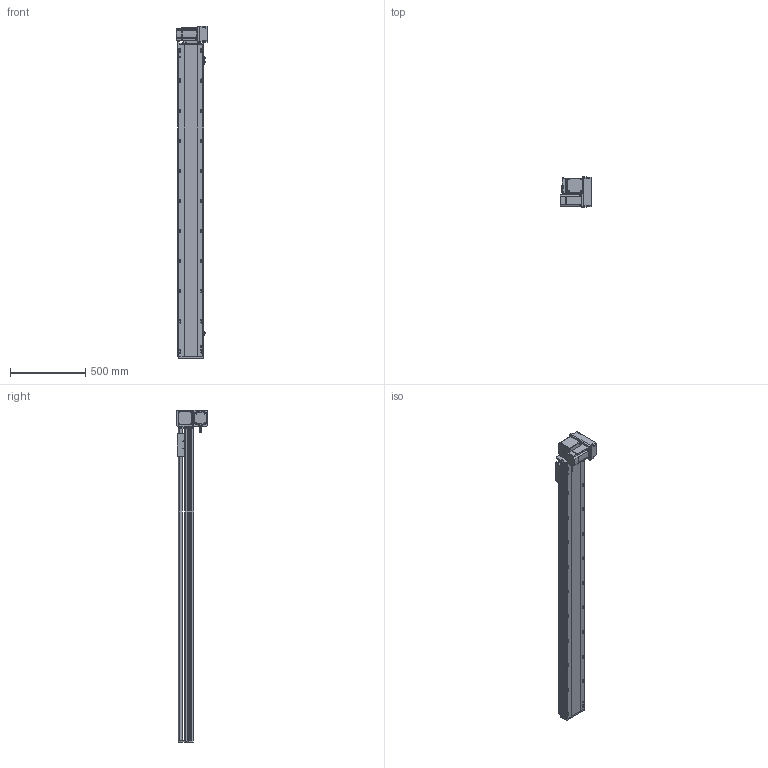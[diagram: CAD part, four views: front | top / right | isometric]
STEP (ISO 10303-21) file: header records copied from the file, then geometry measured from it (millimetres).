
FILE_DESCRIPTION (( 'STEP AP214' ), '1' );
FILE_NAME ('RTB17S-XX-1800-RM-M75-C4.STEP', '2025-12-12T02:11:05', ( '' ), ( '' ), 'SwSTEP 2.0', 'SolidWorks 2018', '' );
FILE_SCHEMA (( 'AUTOMOTIVE_DESIGN' ));
Length unit declared in the file: millimetre
Products named in the file (15): RTB17S-L-007奻裔^RTB17S-XX-XX-RM-M75-C4; RTB17S-XX-1800-RM-M75-C4; RTB22S-GY-018P^RTB17S-RM-々湍釱蚾饜-750W_RTB17S-XX-XX-RM-M75-C4; RTB22S-GY-017P^RTB17S-RM-々湍釱蚾饜-750W_RTB17S-XX-XX-RM-M75-C4; RTB22S-GY-008-M75--萇儂啣^RTB17S-RM-々湍釱蚾饜-750W_RTB17S-XX-XX-RM-M75-C4; RTB17S-L-014-T20-P75--々湍釱^RTB17S-RM-々湍釱蚾饜-750W_RTB17S-XX-XX-RM-M75-C4; RTH13-BL-012覜茼え俋离^RTB17S-賑釱_RTB17S-XX-XX-RM-M75-C4; EE672^RTB17S-XX-XX-RM-M75-C4; RTB17S-L-004-賑釱^RTB17S-賑釱_RTB17S-XX-XX-RM-M75-C4; RTB17-R-011菁釱^RTB17S-XX-XX-RM-M75-C4; RTB17S-賑釱^RTB17S-XX-XX-RM-M75-C4; RTB17S-RM-々湍釱蚾饜-750W^RTB17S-XX-XX-RM-M75-C4; 750W萇儂^RTB17S-XX-XX-RM-M75-C4; RTB17S-L-001-耜醱啣^RTB17S-XX-XX-RM-M75-C4; RTB22S-GY-005P^RTB17S-RM-々湍釱蚾饜-750W_RTB17S-XX-XX-RM-M75-C4
Assembly tree (17 placements, depth 3):
  RTB17S-XX-1800-RM-M75-C4
    RTB17-R-011菁釱^RTB17S-XX-XX-RM-M75-C4
    EE672^RTB17S-XX-XX-RM-M75-C4  x3
    RTB17S-L-001-耜醱啣^RTB17S-XX-XX-RM-M75-C4
    RTB17S-賑釱^RTB17S-XX-XX-RM-M75-C4
      RTB17S-L-004-賑釱^RTB17S-賑釱_RTB17S-XX-XX-RM-M75-C4
      RTH13-BL-012覜茼え俋离^RTB17S-賑釱_RTB17S-XX-XX-RM-M75-C4
    RTB17S-L-007奻裔^RTB17S-XX-XX-RM-M75-C4
    750W萇儂^RTB17S-XX-XX-RM-M75-C4
    RTB17S-RM-々湍釱蚾饜-750W^RTB17S-XX-XX-RM-M75-C4
      RTB17S-L-014-T20-P75--々湍釱^RTB17S-RM-々湍釱蚾饜-750W_RTB17S-XX-XX-RM-M75-C4
      RTB22S-GY-005P^RTB17S-RM-々湍釱蚾饜-750W_RTB17S-XX-XX-RM-M75-C4
      RTB22S-GY-017P^RTB17S-RM-々湍釱蚾饜-750W_RTB17S-XX-XX-RM-M75-C4  x2
      RTB22S-GY-008-M75--萇儂啣^RTB17S-RM-々湍釱蚾饜-750W_RTB17S-XX-XX-RM-M75-C4
      RTB22S-GY-018P^RTB17S-RM-々湍釱蚾饜-750W_RTB17S-XX-XX-RM-M75-C4
Bounding box: 207.4 x 200 x 2207.5 mm (x, y, z)
Volume: 17204687.3 mm3; surface area: 3052683.1 mm2
Topology: 17 solids, 17 shells, 2153 faces, 5998 edges, 3878 vertices
Faces by surface type: plane 978, cylinder 759, bspline 294, cone 110, sphere 8, torus 4
Entity records: 61174 total; most frequent: CARTESIAN_POINT 18062, ORIENTED_EDGE 8840, DIRECTION 8222, EDGE_CURVE 4420, AXIS2_PLACEMENT_3D 2898, VERTEX_POINT 2882, VECTOR 2426, LINE 2426
